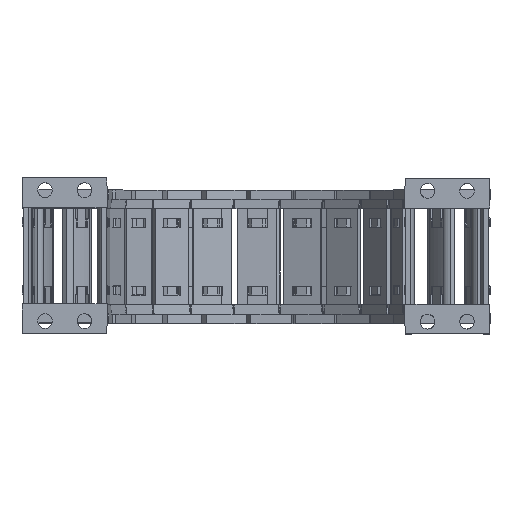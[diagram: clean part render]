
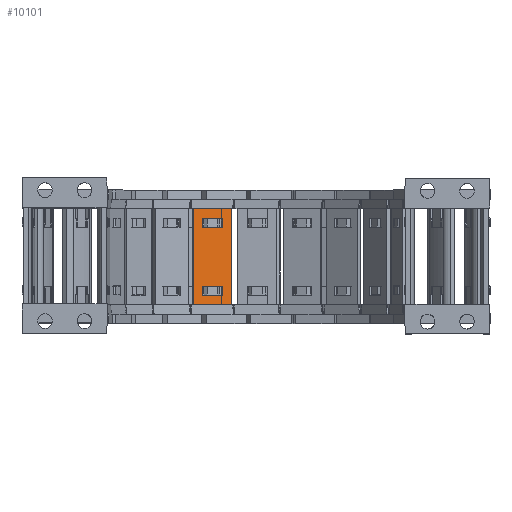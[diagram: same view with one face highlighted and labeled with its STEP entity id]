
A CAD part, top view. The second image highlights one B-rep face of the part: STEP entity #10101.
In plain terms, the highlighted planar face has unit normal (0.259, 0, 0.966).
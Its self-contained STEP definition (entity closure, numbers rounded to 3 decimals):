
#4663=FACE_BOUND('',#23383,.T.);
#4664=FACE_BOUND('',#23384,.T.);
#4665=FACE_BOUND('',#23385,.T.);
#5651=PLANE('',#121248);
#10101=ADVANCED_FACE('',(#4663,#4664,#4665),#5651,.F.);
#23383=EDGE_LOOP('',(#38223,#38224,#38225,#38226));
#23384=EDGE_LOOP('',(#38227,#38228,#38229,#38230));
#23385=EDGE_LOOP('',(#38231,#38232,#38233,#38234));
#38223=ORIENTED_EDGE('',*,*,#81626,.F.);
#38224=ORIENTED_EDGE('',*,*,#81597,.F.);
#38225=ORIENTED_EDGE('',*,*,#81631,.F.);
#38226=ORIENTED_EDGE('',*,*,#81608,.F.);
#38227=ORIENTED_EDGE('',*,*,#81643,.F.);
#38228=ORIENTED_EDGE('',*,*,#81636,.F.);
#38229=ORIENTED_EDGE('',*,*,#81675,.F.);
#38230=ORIENTED_EDGE('',*,*,#81650,.T.);
#38231=ORIENTED_EDGE('',*,*,#81673,.T.);
#38232=ORIENTED_EDGE('',*,*,#81676,.F.);
#38233=ORIENTED_EDGE('',*,*,#81677,.F.);
#38234=ORIENTED_EDGE('',*,*,#81678,.F.);
#69013=VERTEX_POINT('',#171403);
#69014=VERTEX_POINT('',#171405);
#69020=VERTEX_POINT('',#171420);
#69023=VERTEX_POINT('',#171426);
#69040=VERTEX_POINT('',#171483);
#69041=VERTEX_POINT('',#171484);
#69047=VERTEX_POINT('',#171498);
#69050=VERTEX_POINT('',#171506);
#69063=VERTEX_POINT('',#171553);
#69064=VERTEX_POINT('',#171555);
#69065=VERTEX_POINT('',#171560);
#69066=VERTEX_POINT('',#171562);
#81597=EDGE_CURVE('',#69013,#69014,#98089,.T.);
#81608=EDGE_CURVE('',#69023,#69020,#98100,.T.);
#81626=EDGE_CURVE('',#69014,#69023,#98115,.T.);
#81631=EDGE_CURVE('',#69020,#69013,#98120,.T.);
#81636=EDGE_CURVE('',#69040,#69041,#98125,.T.);
#81643=EDGE_CURVE('',#69041,#69047,#98132,.T.);
#81650=EDGE_CURVE('',#69050,#69047,#98139,.T.);
#81673=EDGE_CURVE('',#69064,#69063,#98153,.T.);
#81675=EDGE_CURVE('',#69050,#69040,#98155,.T.);
#81676=EDGE_CURVE('',#69065,#69063,#98156,.T.);
#81677=EDGE_CURVE('',#69066,#69065,#98157,.T.);
#81678=EDGE_CURVE('',#69064,#69066,#98158,.T.);
#98089=LINE('',#171404,#109721);
#98100=LINE('',#171427,#109732);
#98115=LINE('',#171462,#109747);
#98120=LINE('',#171471,#109752);
#98125=LINE('',#171482,#109757);
#98132=LINE('',#171497,#109764);
#98139=LINE('',#171510,#109771);
#98153=LINE('',#171554,#109785);
#98155=LINE('',#171558,#109787);
#98156=LINE('',#171559,#109788);
#98157=LINE('',#171561,#109789);
#98158=LINE('',#171563,#109790);
#109721=VECTOR('',#135874,1.);
#109732=VECTOR('',#135889,1.);
#109747=VECTOR('',#135924,1.);
#109752=VECTOR('',#135933,1.);
#109757=VECTOR('',#135942,1.);
#109764=VECTOR('',#135951,1.);
#109771=VECTOR('',#135960,1.);
#109785=VECTOR('',#136010,1.);
#109787=VECTOR('',#136014,1.);
#109788=VECTOR('',#136015,1.);
#109789=VECTOR('',#136016,1.);
#109790=VECTOR('',#136017,1.);
#121248=AXIS2_PLACEMENT_3D('',#171564,#136018,#136019);
#135874=DIRECTION('',(0.966,0.,-0.259));
#135889=DIRECTION('',(-0.966,0.,0.259));
#135924=DIRECTION('',(0.,1.,0.));
#135933=DIRECTION('',(0.,-1.,0.));
#135942=DIRECTION('',(-0.966,0.,0.259));
#135951=DIRECTION('',(0.,-1.,0.));
#135960=DIRECTION('',(-0.966,0.,0.259));
#136010=DIRECTION('',(0.,-1.,0.));
#136014=DIRECTION('',(0.,1.,0.));
#136015=DIRECTION('',(-0.966,0.,0.259));
#136016=DIRECTION('',(0.,-1.,0.));
#136017=DIRECTION('',(0.966,0.,-0.259));
#136018=DIRECTION('',(-0.259,0.,-0.966));
#136019=DIRECTION('',(-0.966,0.,0.259));
#171403=CARTESIAN_POINT('',(-99.114,-35.03,-76.948));
#171404=CARTESIAN_POINT('',(-99.114,-35.03,-76.948));
#171405=CARTESIAN_POINT('',(-91.242,-35.03,-79.058));
#171420=CARTESIAN_POINT('',(-99.114,-31.382,-76.948));
#171426=CARTESIAN_POINT('',(-91.242,-31.382,-79.058));
#171427=CARTESIAN_POINT('',(-91.242,-31.382,-79.058));
#171462=CARTESIAN_POINT('',(-91.242,-66.46,-79.058));
#171471=CARTESIAN_POINT('',(-99.114,-62.86,-76.948));
#171482=CARTESIAN_POINT('',(-91.242,-3.97,-79.058));
#171483=CARTESIAN_POINT('',(-91.242,-3.97,-79.058));
#171484=CARTESIAN_POINT('',(-99.114,-3.97,-76.948));
#171497=CARTESIAN_POINT('',(-99.114,-3.97,-76.948));
#171498=CARTESIAN_POINT('',(-99.114,-7.618,-76.948));
#171506=CARTESIAN_POINT('',(-91.242,-7.618,-79.058));
#171510=CARTESIAN_POINT('',(-91.242,-7.618,-79.058));
#171553=CARTESIAN_POINT('',(-102.809,-39.,-75.959));
#171554=CARTESIAN_POINT('',(-102.809,0.,-75.959));
#171555=CARTESIAN_POINT('',(-102.809,0.,-75.959));
#171558=CARTESIAN_POINT('',(-91.242,-7.618,-79.058));
#171559=CARTESIAN_POINT('',(-87.547,-39.,-80.048));
#171560=CARTESIAN_POINT('',(-87.547,-39.,-80.048));
#171561=CARTESIAN_POINT('',(-87.547,0.,-80.048));
#171562=CARTESIAN_POINT('',(-87.547,0.,-80.048));
#171563=CARTESIAN_POINT('',(-102.809,0.,-75.959));
#171564=CARTESIAN_POINT('',(-85.46,31.74,-80.607));
